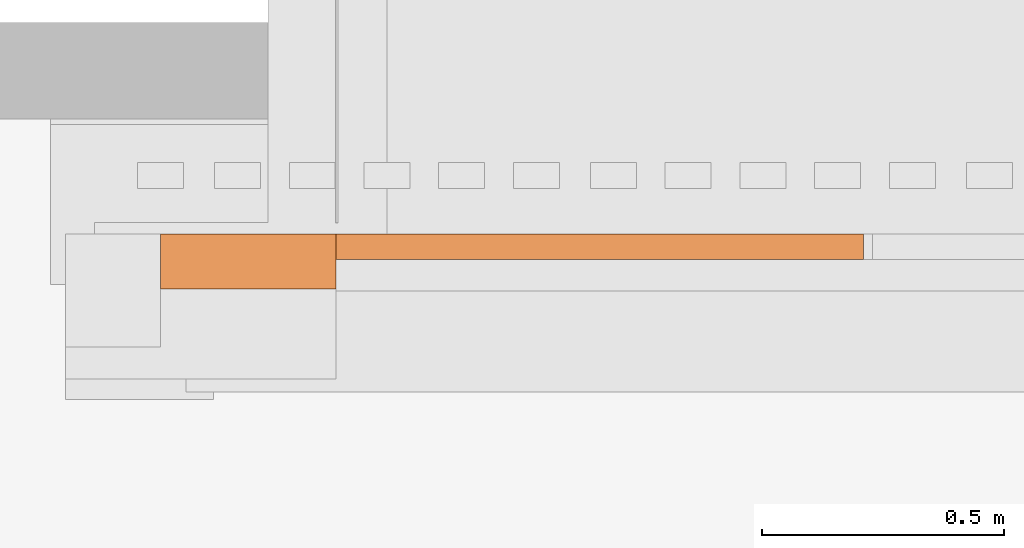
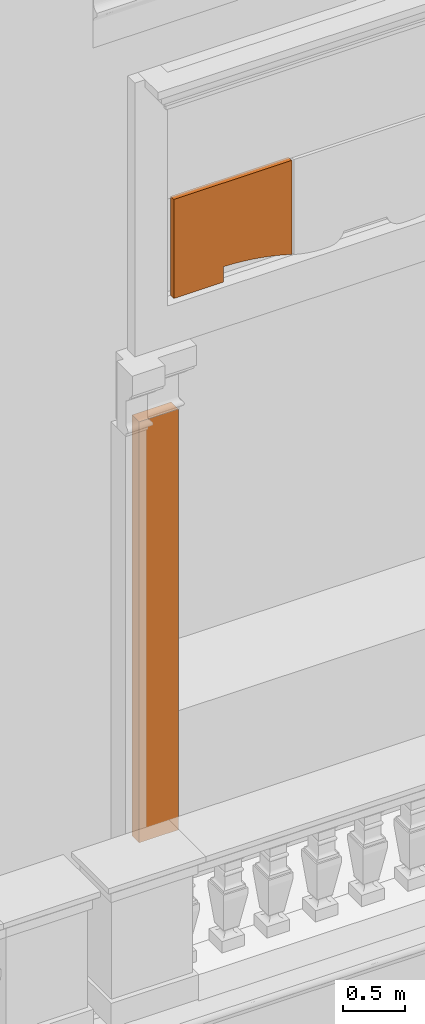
# One storey, part 10 of 14: 2 proxies.
"""IFC2X3 building model written with IfcOpenShell, lengths in metres."""

import ifcopenshell
import ifcopenshell.guid

model = None  # the IFC model being written
_history = None  # IfcOwnerHistory: only IFC2X3 demands one
_inside = {}  # id of a spatial element -> (the spatial element, [elements in it])
_under = {}  # id of a project, library or spatial element -> (it, [spatial elements below it])
_declared = {}  # id of a project -> (the project, [libraries it declares])
_typed = {}  # id of a type object -> (the type object, [elements of that type])
_made_of = {}  # id of a material, layer set ... -> (it, [elements and type objects made of it])


def new_model(schema):
    """Start an empty IFC model of exactly this schema.

    Asked for "IFC4X3", IfcOpenShell would pick the latest addendum, in which some entities
    have other attributes; the version numbers below select the first issue.
    IFC2X3 requires an IfcOwnerHistory on every rooted entity: one is made here for all.
    """
    global model, _history
    if schema == "IFC4X3":
        model = ifcopenshell.file(schema_version=(4, 3, 0, 0))
    else:
        model = ifcopenshell.file(schema=schema)
    _inside.clear()
    _under.clear()
    _declared.clear()
    _typed.clear()
    _made_of.clear()
    _history = None
    if model.schema == "IFC2X3":
        org = make("IfcOrganization", Name="unknown")
        user = make(
            "IfcPersonAndOrganization",
            ThePerson=make("IfcPerson", FamilyName="unknown"),
            TheOrganization=org,
        )
        app = make(
            "IfcApplication",
            ApplicationDeveloper=org,
            Version="unknown",
            ApplicationFullName="unknown",
            ApplicationIdentifier="unknown",
        )
        _history = make(
            "IfcOwnerHistory",
            OwningUser=user,
            OwningApplication=app,
            ChangeAction="ADDED",
            CreationDate=0,
        )
    return model


def make(cls, **values):
    """One entity of the class cls with the attributes given. An attribute that is None is left unset."""
    return model.create_entity(
        cls, **{name: value for name, value in values.items() if value is not None}
    )


def entity(cls, *values):
    """Any entity or typed value of the class cls, its attributes in the order of the schema. None: left unset."""
    e = model.create_entity(cls)
    for i, value in enumerate(values):
        if value is not None:
            e[i] = value
    return e


def rooted(cls, **values):
    """An entity with a GlobalId (a new one), such as an element, a storey or a relation."""
    return make(cls, GlobalId=ifcopenshell.guid.new(), OwnerHistory=_history, **values)


def si_unit(unit_type, name, prefix=None):
    """IfcSIUnit, for example si_unit("LENGTHUNIT", "METRE", prefix="MILLI")."""
    return make("IfcSIUnit", UnitType=unit_type, Prefix=prefix, Name=name)


def converted_unit(unit_type, name, factor, base, dimensions=None, offset=None):
    """IfcConversionBasedUnit, such as the inch: factor (a typed value) times the base unit."""
    return make(
        "IfcConversionBasedUnit"
        if offset is None
        else "IfcConversionBasedUnitWithOffset",
        ConversionOffset=offset,
        Dimensions=None
        if dimensions is None
        else entity("IfcDimensionalExponents", *dimensions),
        UnitType=unit_type,
        Name=name,
        ConversionFactor=make(
            "IfcMeasureWithUnit", ValueComponent=factor, UnitComponent=base
        ),
    )


def derived_unit(unit_type, elements):
    """IfcDerivedUnit: a product of units, each with its exponent."""
    return make(
        "IfcDerivedUnit",
        Elements=[
            make("IfcDerivedUnitElement", Unit=unit, Exponent=power)
            for unit, power in elements
        ],
        UnitType=unit_type,
    )


def assignment(units):
    """IfcUnitAssignment: the units of a project."""
    return None if units is None else make("IfcUnitAssignment", Units=units)


def point(xyz):
    """IfcCartesianPoint."""
    return None if xyz is None else make("IfcCartesianPoint", Coordinates=xyz)


def direction(xyz):
    """IfcDirection."""
    return None if xyz is None else make("IfcDirection", DirectionRatios=xyz)


def frame(location, z_axis=None, x_axis=None):
    """IfcAxis2Placement3D, a coordinate frame: its origin and axes. An axis left out is left unset."""
    return make(
        "IfcAxis2Placement3D",
        Location=point(location),
        Axis=direction(z_axis),
        RefDirection=direction(x_axis),
    )


def frame_2d(location, x_axis=None):
    """IfcAxis2Placement2D, a coordinate frame in the plane: its origin and x axis."""
    return make(
        "IfcAxis2Placement2D", Location=point(location), RefDirection=direction(x_axis)
    )


def origin():
    """The frame at (0, 0, 0) with its axes left unset."""
    return frame((0.0, 0.0, 0.0))


def place(relative_to, where):
    """IfcLocalPlacement: puts the frame where relative to a parent placement (None: the world)."""
    return make(
        "IfcLocalPlacement", PlacementRelTo=relative_to, RelativePlacement=where
    )


def context(
    kind, dimensions, precision=None, world=None, true_north=None, identifier=None
):
    """IfcGeometricRepresentationContext, for example the 3D "Model" context."""
    return make(
        "IfcGeometricRepresentationContext",
        ContextIdentifier=identifier,
        ContextType=kind,
        CoordinateSpaceDimension=dimensions,
        Precision=precision,
        WorldCoordinateSystem=world,
        TrueNorth=true_north,
    )


def subcontext(parent, identifier, kind, view, scale=None):
    """IfcGeometricRepresentationSubContext, for example "Body" below "Model"."""
    return make(
        "IfcGeometricRepresentationSubContext",
        ContextIdentifier=identifier,
        ContextType=kind,
        ParentContext=parent,
        TargetScale=scale,
        TargetView=view,
    )


def project(units=None, contexts=None):
    """IfcProject with its units and contexts."""
    return rooted(
        "IfcProject",
        Name="project",
        RepresentationContexts=contexts,
        UnitsInContext=assignment(units),
    )


def spatial(cls, under=None, at=None, **own):
    """A site, building, storey or space (cls), placed at a placement, below another one or the project."""
    s = rooted(cls, ObjectPlacement=at, **own)
    if under is not None:
        _under.setdefault(under.id(), (under, []))[1].append(s)
    return s


def polyline(points):
    """IfcPolyline through the points."""
    return make("IfcPolyline", Points=[point(p) for p in points])


def circle_curve(where, radius):
    """IfcCircle in the frame where."""
    return make("IfcCircle", Position=where, Radius=radius)


def parameter(value):
    """IfcParameterValue: where a trimmed curve begins or ends, as a parameter of its basis curve."""
    return model.create_entity("IfcParameterValue", value)


def trimmed(basis, trim1, trim2, sense, master):
    """IfcTrimmedCurve: the piece of a basis curve between two trims."""
    return make(
        "IfcTrimmedCurve",
        BasisCurve=basis,
        Trim1=trim1,
        Trim2=trim2,
        SenseAgreement=sense,
        MasterRepresentation=master,
    )


def segment(curve, same_sense, transition):
    """IfcCompositeCurveSegment."""
    return make(
        "IfcCompositeCurveSegment",
        Transition=transition,
        SameSense=same_sense,
        ParentCurve=curve,
    )


def composite_curve(segments, self_intersect=None):
    """IfcCompositeCurve: segments joined end to end."""
    return make("IfcCompositeCurve", Segments=segments, SelfIntersect=self_intersect)


def profile(cls, at=None, kind="AREA", **sizes):
    """A parametric profile (cls). Its sizes go by their IFC names, for example OverallWidth=200.0."""
    return make(cls, ProfileType=kind, Position=at, **sizes)


def rectangle(**sizes):
    """IfcRectangleProfileDef."""
    return profile("IfcRectangleProfileDef", **sizes)


def outline(outer, holes=None, kind="AREA"):
    """IfcArbitraryClosedProfileDef: a profile drawn as a closed curve; with holes, ...WithVoids."""
    if holes is None:
        return make("IfcArbitraryClosedProfileDef", ProfileType=kind, OuterCurve=outer)
    return make(
        "IfcArbitraryProfileDefWithVoids",
        ProfileType=kind,
        OuterCurve=outer,
        InnerCurves=holes,
    )


def extrude(swept, where, along, depth):
    """IfcExtrudedAreaSolid: the profile swept, set in the frame where, extruded along a direction by depth."""
    return make(
        "IfcExtrudedAreaSolid",
        SweptArea=swept,
        Position=where,
        ExtrudedDirection=direction(along),
        Depth=depth,
    )


def shape(context_of_items, identifier, shape_type, items):
    """IfcShapeRepresentation: the items that make up one representation, for example the "Body"."""
    return make(
        "IfcShapeRepresentation",
        ContextOfItems=context_of_items,
        RepresentationIdentifier=identifier,
        RepresentationType=shape_type,
        Items=items,
    )


def material(Name=None, Category=None):
    """IfcMaterial."""
    return make("IfcMaterial", Name=Name, Category=Category)


def made_of(thing, what):
    """Note that an element or type object is made of a material, layer set ...; save() writes the relation."""
    if what is not None:
        _made_of.setdefault(what.id(), (what, []))[1].append(thing)
    return thing


def element(
    cls,
    number,
    at=None,
    inside=None,
    cuts=None,
    type_object=None,
    material=None,
    context=None,
    identifier="Body",
    shape_type=None,
    held_by="IfcProductDefinitionShape",
    body=None,
    shapes=None,
    **own,
):
    """One element of the class cls, such as IfcWall. Its Tag is "e" and its number.

    at: its placement. inside: the storey or other place that contains it. cuts: it is an
    opening in that element (IfcRelVoidsElement). A single representation is given by context,
    identifier, shape_type and body (its items); several are given by shapes. held_by: the class
    of the entity that holds the representations. save() writes the other relations.
    """
    e = rooted(cls, Tag="e%d" % number, ObjectPlacement=at, **own)
    if body is not None:
        shapes = [shape(context, identifier, shape_type, body)]
    if shapes is not None:
        e.Representation = make(held_by, Representations=shapes)
    if inside is not None:
        _inside.setdefault(inside.id(), (inside, []))[1].append(e)
    if cuts is not None:
        rooted(
            "IfcRelVoidsElement", RelatingBuildingElement=cuts, RelatedOpeningElement=e
        )
    if type_object is not None:
        _typed.setdefault(type_object.id(), (type_object, []))[1].append(e)
    return made_of(e, material)


def aggregate(whole, parts):
    """IfcRelAggregates: a whole, such as a stair, and the parts it consists of."""
    return rooted("IfcRelAggregates", RelatingObject=whole, RelatedObjects=parts)


def save(model, path):
    """Write the relations noted so far, then the file.

    IfcRelAggregates (storeys below a building ...), IfcRelContainedInSpatialStructure (elements
    in a storey), IfcRelDefinesByType, IfcRelAssociatesMaterial and IfcRelDeclares: one each for
    every whole, place, type object, material and project.
    """
    for whole, parts in _under.values():
        aggregate(whole, parts)
    for where, things in _inside.values():
        rooted(
            "IfcRelContainedInSpatialStructure",
            RelatedElements=things,
            RelatingStructure=where,
        )
    for kind, things in _typed.values():
        rooted("IfcRelDefinesByType", RelatedObjects=things, RelatingType=kind)
    for what, things in _made_of.values():
        rooted("IfcRelAssociatesMaterial", RelatedObjects=things, RelatingMaterial=what)
    for by, libraries in _declared.values():
        rooted("IfcRelDeclares", RelatingContext=by, RelatedDefinitions=libraries)
    model.write(path)


model = new_model("IFC2X3")

# Units and contexts
model_context = context("Model", 3, precision=1e-05, world=origin(), true_north=direction((6.12303176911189e-17, 1.0)))
body_context = subcontext(model_context, "Body", "Model", "MODEL_VIEW")
ifc_project = project(units=[si_unit("LENGTHUNIT", "METRE"), si_unit("AREAUNIT", "SQUARE_METRE"), si_unit("VOLUMEUNIT", "CUBIC_METRE"), converted_unit("PLANEANGLEUNIT", "DEGREE", entity("IfcRatioMeasure", 0.0174532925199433), si_unit("PLANEANGLEUNIT", "RADIAN"), dimensions=[0, 0, 0, 0, 0, 0, 0]), si_unit("MASSUNIT", "GRAM", prefix="KILO"), derived_unit("MASSDENSITYUNIT", [(si_unit("MASSUNIT", "GRAM", prefix="KILO"), 1), (si_unit("LENGTHUNIT", "METRE"), -3)]), si_unit("TIMEUNIT", "SECOND"), si_unit("FREQUENCYUNIT", "HERTZ"), si_unit("THERMODYNAMICTEMPERATUREUNIT", "DEGREE_CELSIUS"), derived_unit("THERMALTRANSMITTANCEUNIT", [(si_unit("MASSUNIT", "GRAM", prefix="KILO"), 1), (si_unit("THERMODYNAMICTEMPERATUREUNIT", "KELVIN"), -1), (si_unit("TIMEUNIT", "SECOND"), -3)]), derived_unit("VOLUMETRICFLOWRATEUNIT", [(si_unit("LENGTHUNIT", "METRE"), 3), (si_unit("TIMEUNIT", "SECOND"), -1)]), si_unit("ELECTRICCURRENTUNIT", "AMPERE"), si_unit("ELECTRICVOLTAGEUNIT", "VOLT"), si_unit("POWERUNIT", "WATT"), si_unit("FORCEUNIT", "NEWTON", prefix="KILO"), si_unit("ILLUMINANCEUNIT", "LUX"), si_unit("LUMINOUSFLUXUNIT", "LUMEN"), si_unit("LUMINOUSINTENSITYUNIT", "CANDELA"), derived_unit("USERDEFINED", [(si_unit("MASSUNIT", "GRAM", prefix="KILO"), -1), (si_unit("LENGTHUNIT", "METRE"), -2), (si_unit("TIMEUNIT", "SECOND"), 3), (si_unit("LUMINOUSFLUXUNIT", "LUMEN"), 1)]), derived_unit("LINEARVELOCITYUNIT", [(si_unit("LENGTHUNIT", "METRE"), 1), (si_unit("TIMEUNIT", "SECOND"), -1)]), si_unit("PRESSUREUNIT", "PASCAL"), derived_unit("USERDEFINED", [(si_unit("LENGTHUNIT", "METRE"), -2), (si_unit("MASSUNIT", "GRAM", prefix="KILO"), 1), (si_unit("TIMEUNIT", "SECOND"), -2)])], contexts=[model_context])

# Site, building, storey
site_placement = place(None, origin())
site = spatial("IfcSite", under=ifc_project, at=site_placement, Name="Default", CompositionType="ELEMENT")
building_placement = place(site_placement, origin())
building = spatial("IfcBuilding", under=site, at=building_placement, CompositionType="ELEMENT")
storey_placement = place(building_placement, frame((0.0, 0.0, 13.366833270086)))
storey = spatial("IfcBuildingStorey", under=building, at=storey_placement, Name="Livello 2", CompositionType="ELEMENT", Elevation=13.366833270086)

# Proxies
ifc_material = material(Name="Travertino")
proxy_1_placement = place(storey_placement, frame((5.29583598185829, 0.972978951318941, 5.80637845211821)))
element("IfcBuildingElementProxy", 1, at=proxy_1_placement, inside=storey, material=ifc_material, Name="Stratigrafia", context=body_context, shape_type="SweptSolid", body=[
    extrude(outline(composite_curve([segment(polyline([(0.0568506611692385, -0.358596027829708), (0.520896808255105, -0.358596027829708)]), True, "CONTINUOUS"), segment(polyline([(0.520896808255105, -0.358596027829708), (0.52089680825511, 0.616525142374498)]), True, "CONTINUOUS"), segment(polyline([(0.52089680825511, 0.616525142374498), (-0.577744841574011, 0.616525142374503)]), True, "CONTINUOUS"), segment(polyline([(-0.577744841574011, 0.616525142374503), (-0.577744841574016, -0.308775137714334)]), True, "CONTINUOUS"), segment(trimmed(circle_curve(frame_2d((0.109270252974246, -2.56509763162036), x_axis=(-0.312451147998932, 0.949933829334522)), 2.35859723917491), [parameter(343.066615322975)], [parameter(358.72766640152)], True, "PARAMETER"), False, "CONTINUOUS"), segment(polyline([(0.0568454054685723, -0.207083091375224), (0.0568506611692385, -0.358596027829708)]), True, "CONTINUOUS")], self_intersect=False)), frame((0.520896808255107, 0.0, 0.358596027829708), z_axis=(0.0, 1.0, 0.0), x_axis=(-1.0, 0.0, 0.0)), (0.0, 0.0, 1.0), 0.0525535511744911),
])
proxy_2_placement = place(storey_placement, frame((4.93941322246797, 0.912024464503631, 0.612700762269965)))
element("IfcBuildingElementProxy", 2, at=proxy_2_placement, inside=storey, material=ifc_material, Name="Stratigrafia", context=body_context, shape_type="SweptSolid", body=[
    extrude(rectangle(XDim=4.14295671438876, YDim=0.113508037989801, at=frame_2d((-1.11022302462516e-15, 6.93889390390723e-17), x_axis=(1.0, 0.0))), frame((0.0, 0.0567540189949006, 2.07147835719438), z_axis=(1.0, 0.0, 0.0), x_axis=(0.0, 0.0, -1.0)), (0.0, 0.0, 1.0), 0.363133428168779),
])

save(model, "model.ifc")
